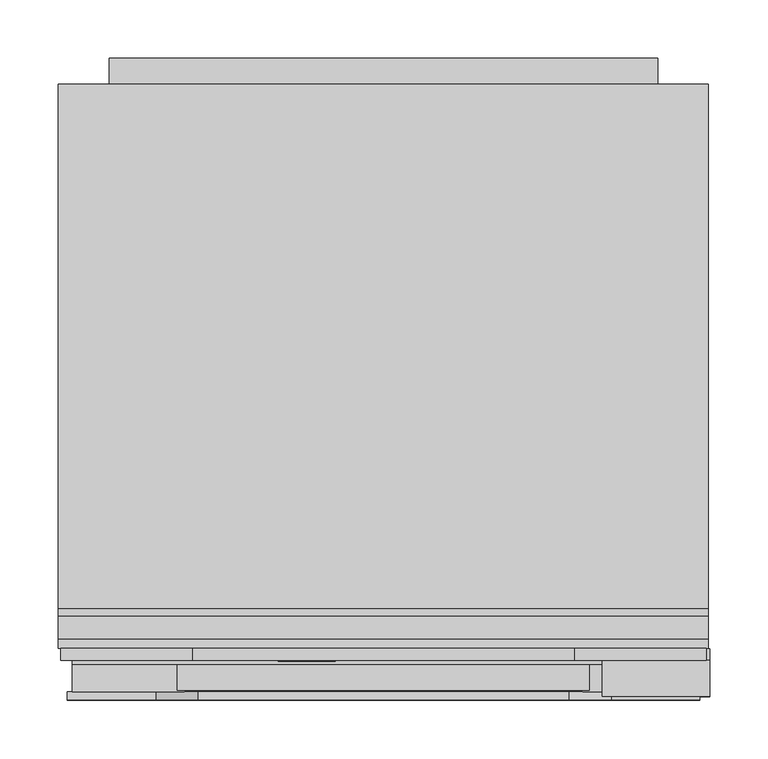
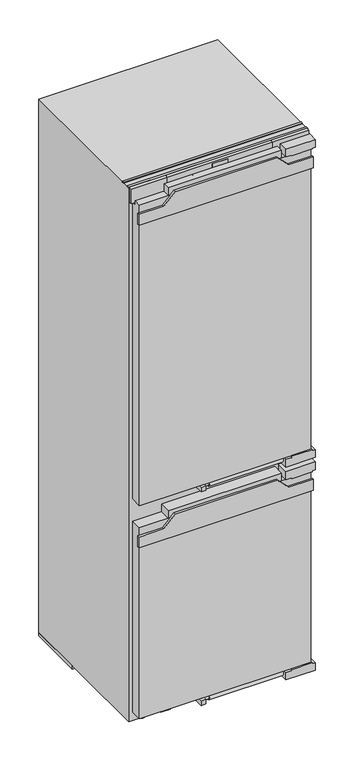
"""IFC4 building model written with IfcOpenShell, lengths in millimetres: proxy geometry, 11717510_OER_KFN7795D : 38779500_OER_11717510_KFN7795D."""

from ifc_helpers import new_model, si_unit, point, frame, frame_2d, origin, origin_with_axes, place, context, project, spatial, polyline, circle_curve, ellipse_curve, trimmed, segment, composite_curve, outline, extrude, faceted_brep, source, transform, mapped, element, save
from ifc_brep_helpers import plane_surface, cylinder_surface, revolved_surface, extruded_surface, advanced_brep


def specialty_equipment_5feef6a3(model_context):
    return source(origin(), model_context, "Body", "SolidModel", [
        advanced_brep(
        [(-46.64, 33.0, 1742.896), (-46.64, 33.0, 1743.704), (-41.288, 33.0, 1743.704), (-50.6, 33.0, 1743.704), (-48.4, 33.0, 1741.0), (-41.424, 33.0, 1742.896), (-43.84, 33.0, 1742.896), (-45.744, 33.0, 1742.0), (-46.64, 33.0, 1744.728), (-46.64, 33.0, 1745.6), (-45.272, 33.0, 1745.6), (-45.272, 33.0, 1744.728), (-46.64, 34.0, 1742.896), (-45.744, 34.0, 1742.0), (-43.84, 34.0, 1742.896), (-41.424, 34.0, 1742.896), (-48.4, 34.0, 1741.0), (-50.6, 34.0, 1743.704), (-41.288, 34.0, 1743.704), (-46.64, 34.0, 1743.704), (-46.64, 34.0, 1744.728), (-45.272, 34.0, 1744.728), (-45.272, 34.0, 1745.6), (-46.64, 34.0, 1745.6)],
        [
            (0, 1),
            (1, 2),
            (2, 3, ellipse_curve(frame((-45.944, 33.0, 1743.704), z_axis=(0.0, -1.0, 0.0), x_axis=(-1.0, 0.0, 0.0)), 4.656, 3.848)),
            (3, 4, circle_curve(frame((-47.5039564, 33.0, 1743.976), z_axis=(0.0, -1.0, 0.0), x_axis=(0.0, 0.0, -1.0)), 3.1079688)),
            (4, 5, circle_curve(frame((-46.0372064, 33.0, 1746.088), z_axis=(0.0, -1.0, 0.0), x_axis=(0.0, 0.0, -1.0)), 5.6098607)),
            (5, 6),
            (6, 7, circle_curve(frame((-45.3529412, 33.0, 1743.64), z_axis=(0.0, 1.0, 0.0), x_axis=(0.0, 0.0, -1.0)), 1.6859795)),
            (7, 0, circle_curve(frame((-45.744, 33.0, 1742.896), z_axis=(0.0, 1.0, 0.0), x_axis=(0.0, 0.0, -1.0)), 0.896)),
            (8, 9),
            (9, 10, circle_curve(frame((-45.956, 33.0, 1745.6), z_axis=(0.0, 1.0, 0.0), x_axis=(0.0, 0.0, -1.0)), 0.684)),
            (10, 11),
            (11, 8),
            (12, 13, circle_curve(frame((-45.744, 34.0, 1742.896), z_axis=(0.0, -1.0, 0.0), x_axis=(0.0, 0.0, -1.0)), 0.896)),
            (13, 14, circle_curve(frame((-45.3529412, 34.0, 1743.64), z_axis=(0.0, -1.0, 0.0), x_axis=(0.0, 0.0, -1.0)), 1.6859795)),
            (14, 15),
            (15, 16, circle_curve(frame((-46.0372064, 34.0, 1746.088), z_axis=(0.0, 1.0, 0.0), x_axis=(0.0, 0.0, -1.0)), 5.6098607)),
            (16, 17, circle_curve(frame((-47.5039564, 34.0, 1743.976), z_axis=(0.0, 1.0, 0.0), x_axis=(0.0, 0.0, -1.0)), 3.1079688)),
            (17, 18, ellipse_curve(frame((-45.944, 34.0, 1743.704), z_axis=(0.0, 1.0, 0.0), x_axis=(-1.0, 0.0, 0.0)), 4.656, 3.848)),
            (18, 19),
            (19, 12),
            (20, 21),
            (21, 22),
            (22, 23, circle_curve(frame((-45.956, 34.0, 1745.6), z_axis=(0.0, -1.0, 0.0), x_axis=(0.0, 0.0, -1.0)), 0.684)),
            (23, 20),
            (0, 12),
            (19, 1),
            (18, 2),
            (5, 15),
            (14, 6),
            (17, 3),
            (13, 7),
            (16, 4),
            (8, 20),
            (23, 9),
            (22, 10),
            (21, 11),
        ],
        [
            plane_surface(frame((-46.64, 33.0, 1743.704), z_axis=(0.0, -1.0, 0.0), x_axis=(0.0, 0.0, 1.0))),
            plane_surface(frame((-46.64, 34.0, 1743.704), z_axis=(0.0, 1.0, 0.0), x_axis=(0.0, 0.0, -1.0))),
            plane_surface(frame((-46.64, 33.0, 1742.896), z_axis=(1.0, 0.0, 0.0), x_axis=(0.0, 1.0, 0.0))),
            plane_surface(frame((-46.64, 33.0, 1743.704), z_axis=(0.0, 0.0, -1.0), x_axis=(0.0, 1.0, 0.0))),
            plane_surface(frame((-41.424, 33.0, 1742.896), z_axis=(0.0, 0.0, 1.0), x_axis=(0.0, 1.0, 0.0))),
            extruded_surface(trimmed(ellipse_curve(frame((-45.944, 35.0, 1743.704), z_axis=(0.0, -1.0, 0.0), x_axis=(-1.0, 0.0, 0.0)), 4.656, 3.848), [point((-41.288, 35.0, 1743.704))], [point((-50.6, 35.0, 1743.704))], True, "CARTESIAN"), (0.0, -1.0, 0.0), 1.0),
            revolved_surface(polyline([(-45.3529412, 34.0, 1741.9540205), (-45.3529412, 33.0, 1741.9540205)]), (-45.3529412, 34.0, 1743.64), (0.0, 1.0, 0.0)),
            revolved_surface(polyline([(-45.744, 34.0, 1742.0), (-45.744, 33.0, 1742.0)]), (-45.744, 34.0, 1742.896), (0.0, 1.0, 0.0)),
            cylinder_surface(frame((-47.5039564, 34.0, 1743.976), z_axis=(0.0, -1.0, 0.0), x_axis=(0.0, 0.0, -1.0)), 3.1079688),
            cylinder_surface(frame((-46.0372064, 34.0, 1746.088), z_axis=(0.0, -1.0, 0.0), x_axis=(0.0, 0.0, -1.0)), 5.6098607),
            plane_surface(frame((-46.64, 33.0, 1744.728), z_axis=(1.0, 0.0, 0.0), x_axis=(0.0, 1.0, 0.0))),
            revolved_surface(polyline([(-45.956, 34.0, 1744.916), (-45.956, 33.0, 1744.916)]), (-45.956, 34.0, 1745.6), (0.0, 1.0, 0.0)),
            plane_surface(frame((-45.272, 33.0, 1745.6), z_axis=(-1.0, 0.0, 0.0), x_axis=(0.0, 1.0, 0.0))),
            plane_surface(frame((-45.272, 33.0, 1744.728), z_axis=(0.0, 0.0, 1.0), x_axis=(0.0, 1.0, 0.0))),
        ],
        [
            (0, [[1, 2, 3, 4, 5, 6, 7, 8], [9, 10, 11, 12]]),
            (1, [[13, 14, 15, 16, 17, 18, 19, 20], [21, 22, 23, 24]]),
            (2, [[-1, 25, -20, 26]]),
            (3, [[-2, -26, -19, 27]]),
            (4, [[-6, 28, -15, 29]]),
            (5, [[-3, -27, -18, 30]]),
            (6, [[-7, -29, -14, 31]]),
            (7, [[-8, -31, -13, -25]]),
            (8, [[-4, -30, -17, 32]]),
            (9, [[-5, -32, -16, -28]]),
            (10, [[-9, 33, -24, 34]]),
            (11, [[-10, -34, -23, 35]]),
            (12, [[-11, -35, -22, 36]]),
            (13, [[-12, -36, -21, -33]]),
        ],
    ),
        advanced_brep(
        [(-63.336, 33.0, 1742.896), (-63.336, 33.0, 1743.704), (-57.984, 33.0, 1743.704), (-67.296, 33.0, 1743.704), (-65.096, 33.0, 1741.0), (-58.12, 33.0, 1742.896), (-60.536, 33.0, 1742.896), (-62.44, 33.0, 1742.0), (-63.336, 33.0, 1744.728), (-63.336, 33.0, 1745.6), (-61.968, 33.0, 1745.6), (-61.968, 33.0, 1744.728), (-63.336, 34.0, 1742.896), (-62.44, 34.0, 1742.0), (-60.536, 34.0, 1742.896), (-58.12, 34.0, 1742.896), (-65.096, 34.0, 1741.0), (-67.296, 34.0, 1743.704), (-57.984, 34.0, 1743.704), (-63.336, 34.0, 1743.704), (-63.336, 34.0, 1744.728), (-61.968, 34.0, 1744.728), (-61.968, 34.0, 1745.6), (-63.336, 34.0, 1745.6)],
        [
            (0, 1),
            (1, 2),
            (2, 3, ellipse_curve(frame((-62.64, 33.0, 1743.704), z_axis=(0.0, -1.0, 0.0), x_axis=(-1.0, 0.0, 0.0)), 4.656, 3.848)),
            (3, 4, circle_curve(frame((-64.1999564, 33.0, 1743.976), z_axis=(0.0, -1.0, 0.0), x_axis=(0.0, 0.0, -1.0)), 3.1079688)),
            (4, 5, circle_curve(frame((-62.7332064, 33.0, 1746.088), z_axis=(0.0, -1.0, 0.0), x_axis=(0.0, 0.0, -1.0)), 5.6098607)),
            (5, 6),
            (6, 7, circle_curve(frame((-62.0489412, 33.0, 1743.64), z_axis=(0.0, 1.0, 0.0), x_axis=(0.0, 0.0, -1.0)), 1.6859795)),
            (7, 0, circle_curve(frame((-62.44, 33.0, 1742.896), z_axis=(0.0, 1.0, 0.0), x_axis=(0.0, 0.0, -1.0)), 0.896)),
            (8, 9),
            (9, 10, circle_curve(frame((-62.652, 33.0, 1745.6), z_axis=(0.0, 1.0, 0.0), x_axis=(0.0, 0.0, -1.0)), 0.684)),
            (10, 11),
            (11, 8),
            (12, 13, circle_curve(frame((-62.44, 34.0, 1742.896), z_axis=(0.0, -1.0, 0.0), x_axis=(0.0, 0.0, -1.0)), 0.896)),
            (13, 14, circle_curve(frame((-62.0489412, 34.0, 1743.64), z_axis=(0.0, -1.0, 0.0), x_axis=(0.0, 0.0, -1.0)), 1.6859795)),
            (14, 15),
            (15, 16, circle_curve(frame((-62.7332064, 34.0, 1746.088), z_axis=(0.0, 1.0, 0.0), x_axis=(0.0, 0.0, -1.0)), 5.6098607)),
            (16, 17, circle_curve(frame((-64.1999564, 34.0, 1743.976), z_axis=(0.0, 1.0, 0.0), x_axis=(0.0, 0.0, -1.0)), 3.1079688)),
            (17, 18, ellipse_curve(frame((-62.64, 34.0, 1743.704), z_axis=(0.0, 1.0, 0.0), x_axis=(-1.0, 0.0, 0.0)), 4.656, 3.848)),
            (18, 19),
            (19, 12),
            (20, 21),
            (21, 22),
            (22, 23, circle_curve(frame((-62.652, 34.0, 1745.6), z_axis=(0.0, -1.0, 0.0), x_axis=(0.0, 0.0, -1.0)), 0.684)),
            (23, 20),
            (0, 12),
            (19, 1),
            (18, 2),
            (5, 15),
            (14, 6),
            (17, 3),
            (13, 7),
            (16, 4),
            (8, 20),
            (23, 9),
            (22, 10),
            (21, 11),
        ],
        [
            plane_surface(frame((-63.336, 33.0, 1743.704), z_axis=(0.0, -1.0, 0.0), x_axis=(0.0, 0.0, 1.0))),
            plane_surface(frame((-63.336, 34.0, 1743.704), z_axis=(0.0, 1.0, 0.0), x_axis=(0.0, 0.0, -1.0))),
            plane_surface(frame((-63.336, 33.0, 1742.896), z_axis=(1.0, 0.0, 0.0), x_axis=(0.0, 1.0, 0.0))),
            plane_surface(frame((-63.336, 33.0, 1743.704), z_axis=(0.0, 0.0, -1.0), x_axis=(0.0, 1.0, 0.0))),
            plane_surface(frame((-58.12, 33.0, 1742.896), z_axis=(0.0, 0.0, 1.0), x_axis=(0.0, 1.0, 0.0))),
            extruded_surface(trimmed(ellipse_curve(frame((-62.64, 35.0, 1743.704), z_axis=(0.0, -1.0, 0.0), x_axis=(-1.0, 0.0, 0.0)), 4.656, 3.848), [point((-57.984, 35.0, 1743.704))], [point((-67.296, 35.0, 1743.704))], True, "CARTESIAN"), (0.0, -1.0, 0.0), 1.0),
            revolved_surface(polyline([(-62.0489412, 34.0, 1741.9540205), (-62.0489412, 33.0, 1741.9540205)]), (-62.0489412, 34.0, 1743.64), (0.0, 1.0, 0.0)),
            revolved_surface(polyline([(-62.44, 34.0, 1742.0), (-62.44, 33.0, 1742.0)]), (-62.44, 34.0, 1742.896), (0.0, 1.0, 0.0)),
            cylinder_surface(frame((-64.1999564, 34.0, 1743.976), z_axis=(0.0, -1.0, 0.0), x_axis=(0.0, 0.0, -1.0)), 3.1079688),
            cylinder_surface(frame((-62.7332064, 34.0, 1746.088), z_axis=(0.0, -1.0, 0.0), x_axis=(0.0, 0.0, -1.0)), 5.6098607),
            plane_surface(frame((-63.336, 33.0, 1744.728), z_axis=(1.0, 0.0, 0.0), x_axis=(0.0, 1.0, 0.0))),
            revolved_surface(polyline([(-62.652, 34.0, 1744.916), (-62.652, 33.0, 1744.916)]), (-62.652, 34.0, 1745.6), (0.0, 1.0, 0.0)),
            plane_surface(frame((-61.968, 33.0, 1745.6), z_axis=(-1.0, 0.0, 0.0), x_axis=(0.0, 1.0, 0.0))),
            plane_surface(frame((-61.968, 33.0, 1744.728), z_axis=(0.0, 0.0, 1.0), x_axis=(0.0, 1.0, 0.0))),
        ],
        [
            (0, [[1, 2, 3, 4, 5, 6, 7, 8], [9, 10, 11, 12]]),
            (1, [[13, 14, 15, 16, 17, 18, 19, 20], [21, 22, 23, 24]]),
            (2, [[-1, 25, -20, 26]]),
            (3, [[-2, -26, -19, 27]]),
            (4, [[-6, 28, -15, 29]]),
            (5, [[-3, -27, -18, 30]]),
            (6, [[-7, -29, -14, 31]]),
            (7, [[-8, -31, -13, -25]]),
            (8, [[-4, -30, -17, 32]]),
            (9, [[-5, -32, -16, -28]]),
            (10, [[-9, 33, -24, 34]]),
            (11, [[-10, -34, -23, 35]]),
            (12, [[-11, -35, -22, 36]]),
            (13, [[-12, -36, -21, -33]]),
        ],
    ),
        extrude(outline(polyline([(1748.528, -72.08), (1747.232, -71.472), (1748.496, -68.76), (1749.792, -69.36), (1748.528, -72.08)])), frame((0.0, 33.0, 0.0), z_axis=(0.0, 1.0, 0.0), x_axis=(0.0, 0.0, 1.0)), (0.0, 0.0, 1.0), 1.0),
        extrude(outline(polyline([(1747.056, -74.056), (1745.624, -74.056), (1745.624, -73.104), (1742.344, -73.104), (1742.344, -74.056), (1741.0, -74.056), (1741.0, -67.744), (1742.344, -67.744), (1742.344, -68.672), (1747.056, -68.672), (1747.056, -74.056)])), frame((0.0, 33.0, 0.0), z_axis=(0.0, 1.0, 0.0), x_axis=(0.0, 0.0, 1.0)), (0.0, 0.0, 1.0), 1.0),
        extrude(outline(polyline([(1747.696, -57.536), (1747.696, -56.576), (1742.344, -56.576), (1742.344, -57.536), (1741.0, -57.536), (1741.0, -51.048), (1742.344, -51.048), (1742.344, -52.032), (1749.0, -52.032), (1749.0, -57.536), (1747.696, -57.536)])), frame((0.0, 33.0, 0.0), z_axis=(0.0, 1.0, 0.0), x_axis=(0.0, 0.0, 1.0)), (0.0, 0.0, 1.0), 1.0),
        extrude(outline(polyline([(1747.696, -90.0), (1747.696, -89.032), (1742.344, -89.032), (1742.344, -90.0), (1741.0, -90.0), (1741.0, -86.48), (1742.344, -86.48), (1742.344, -87.44), (1745.7471247, -87.44), (1741.0, -83.864), (1745.8152223, -80.272), (1742.344, -80.272), (1742.344, -81.256), (1741.0, -81.256), (1741.0, -74.872), (1742.344, -74.872), (1742.344, -75.888), (1747.696, -75.888), (1747.696, -74.872), (1749.0, -74.872), (1749.0, -79.744), (1746.0, -82.08), (1749.0, -84.424), (1749.0, -90.0), (1747.696, -90.0)])), frame((0.0, 33.0, 0.0), z_axis=(0.0, 1.0, 0.0), x_axis=(0.0, 0.0, 1.0)), (0.0, 0.0, 1.0), 1.0),
        extrude(outline(polyline([(607.0, 271.0), (643.0, 271.0), (643.0, 195.0), (679.0, 159.0), (679.0, -159.0), (643.0, -195.0), (643.0, -271.0), (607.0, -271.0), (607.0, 271.0)])), frame((0.0, 0.0, 0.0), z_axis=(0.0, 1.0, 0.0), x_axis=(0.0, 0.0, 1.0)), (0.0, 0.0, 1.0), 7.0),
        extrude(outline(polyline([(1669.0, 271.0), (1705.0, 271.0), (1705.0, 195.0), (1741.0, 159.0), (1741.0, -159.0), (1705.0, -195.0), (1705.0, -271.0), (1669.0, -271.0), (1669.0, 271.0)])), frame((0.0, 0.0, 0.0), z_axis=(0.0, 1.0, 0.0), x_axis=(0.0, 0.0, 1.0)), (0.0, 0.0, 1.0), 7.0),
        extrude(outline(composite_curve([segment(trimmed(circle_curve(frame_2d((-65.5, 25.0)), 6.5), [point((-72.0, 25.0))], [point((-59.0, 25.0))], False, "CARTESIAN"), True, "CONTINUOUS"), segment(trimmed(circle_curve(frame_2d((-65.5, 25.0)), 6.5), [point((-59.0, 25.0))], [point((-72.0, 25.0))], False, "CARTESIAN"), True, "CONTINUOUS")], self_intersect=False)), frame((0.0, 0.0, 732.0), z_axis=(0.0, 0.0, 1.0), x_axis=(1.0, 0.0, 0.0)), (0.0, 0.0, 1.0), 8.0),
        extrude(outline(polyline([(-74.0, 42.0), (-59.0, 42.0), (-59.0, 8.0), (-74.0, 8.0), (-74.0, 42.0)])), frame((0.0, 0.0, 717.3963013), z_axis=(0.0, 0.0, 1.0), x_axis=(1.0, 0.0, 0.0)), (0.0, 0.0, 1.0), 14.6036987),
        extrude(outline(composite_curve([segment(trimmed(circle_curve(frame_2d((-65.5, 25.0)), 6.5), [point((-72.0, 25.0))], [point((-59.0, 25.0))], False, "CARTESIAN"), True, "CONTINUOUS"), segment(trimmed(circle_curve(frame_2d((-65.5, 25.0)), 6.5), [point((-59.0, 25.0))], [point((-72.0, 25.0))], False, "CARTESIAN"), True, "CONTINUOUS")], self_intersect=False)), frame((0.0, 0.0, 29.0), z_axis=(0.0, 0.0, 1.0), x_axis=(1.0, 0.0, 0.0)), (0.0, 0.0, 1.0), 9.0),
        extrude(outline(polyline([(-74.0, 42.0), (-59.0, 42.0), (-59.0, 8.0), (-74.0, 8.0), (-74.0, 42.0)])), frame((0.0, 0.0, 14.3963013), z_axis=(0.0, 0.0, 1.0), x_axis=(1.0, 0.0, 0.0)), (0.0, 0.0, 1.0), 14.6036987),
        extrude(outline(polyline([(736.0, 205.5), (736.0, 187.5), (711.0, 187.5), (711.0, 279.5), (736.0, 279.5), (736.0, 269.5), (740.0, 269.5), (740.0, 205.5), (736.0, 205.5)])), frame((0.0, 3.0, 0.0), z_axis=(0.0, 1.0, 0.0), x_axis=(0.0, 0.0, 1.0)), (0.0, 0.0, 1.0), 41.0),
        extrude(outline(polyline([(176.5, 8.0), (-176.5, 8.0), (-176.5, 30.0), (176.5, 30.0), (176.5, 8.0)])), frame((0.0, 0.0, 1730.0), z_axis=(0.0, 0.0, 1.0), x_axis=(1.0, 0.0, 0.0)), (0.0, 0.0, 1.0), 25.0),
        extrude(outline(polyline([(7.0, 740.0), (7.0, 1730.0), (30.0, 1730.0), (30.0, 1715.0), (44.0, 1715.0), (44.0, 740.0), (7.0, 740.0)])), frame((-266.5, 0.0, 0.0), z_axis=(1.0, 0.0, 0.0), x_axis=(0.0, 1.0, 0.0)), (0.0, 0.0, 1.0), 533.0),
        extrude(outline(polyline([(-176.5, 44.0), (176.5, 44.0), (176.5, 8.0), (-176.5, 8.0), (-176.5, 44.0)])), frame((0.0, 0.0, 667.0), z_axis=(0.0, 0.0, 1.0), x_axis=(1.0, 0.0, 0.0)), (0.0, 0.0, 1.0), 25.0),
        extrude(outline(polyline([(696.0, 279.5), (696.0, 187.5), (670.0, 187.5), (670.0, 205.5), (667.0, 205.5), (667.0, 269.5), (670.0, 269.5), (670.0, 279.5), (696.0, 279.5)])), frame((0.0, 3.0, 0.0), z_axis=(0.0, 1.0, 0.0), x_axis=(0.0, 0.0, 1.0)), (0.0, 0.0, 1.0), 41.0),
        extrude(outline(polyline([(34.0, 205.5), (34.0, 187.5), (10.0, 187.5), (10.0, 279.5), (34.0, 279.5), (34.0, 269.5), (38.0, 269.5), (38.0, 205.5), (34.0, 205.5)])), frame((0.0, 3.0, 0.0), z_axis=(0.0, 1.0, 0.0), x_axis=(0.0, 0.0, 1.0)), (0.0, 0.0, 1.0), 41.0),
        extrude(outline(polyline([(1732.0, 269.5), (1732.0, 279.5), (1757.0, 279.5), (1757.0, 187.5), (1732.0, 187.5), (1732.0, 205.5), (1730.0, 205.5), (1730.0, 269.5), (1732.0, 269.5)])), frame((0.0, 3.0, 0.0), z_axis=(0.0, 1.0, 0.0), x_axis=(0.0, 0.0, 1.0)), (0.0, 0.0, 1.0), 31.0),
        extrude(outline(polyline([(-266.5, 44.0), (266.5, 44.0), (266.5, 7.0), (-266.5, 7.0), (-266.5, 44.0)])), frame((0.0, 0.0, 38.0), z_axis=(0.0, 0.0, 1.0), x_axis=(1.0, 0.0, 0.0)), (0.0, 0.0, 1.0), 629.0),
        extrude(outline(composite_curve([segment(trimmed(circle_curve(frame_2d((25.0, 726.0)), 6.0), [point((25.0, 720.0))], [point((25.0, 732.0))], False, "CARTESIAN"), True, "CONTINUOUS"), segment(trimmed(circle_curve(frame_2d((25.0, 726.0)), 6.0), [point((25.0, 732.0))], [point((25.0, 720.0))], False, "CARTESIAN"), True, "CONTINUOUS")], self_intersect=False)), frame((-59.0, 0.0, 0.0), z_axis=(1.0, 0.0, 0.0), x_axis=(0.0, 1.0, 0.0)), (0.0, 0.0, 1.0), 16.0),
        extrude(outline(composite_curve([segment(trimmed(circle_curve(frame_2d((25.0, 726.0)), 9.0), [point((25.0, 717.0))], [point((25.0, 735.0))], False, "CARTESIAN"), True, "CONTINUOUS"), segment(trimmed(circle_curve(frame_2d((25.0, 726.0)), 9.0), [point((25.0, 735.0))], [point((25.0, 717.0))], False, "CARTESIAN"), True, "CONTINUOUS")], self_intersect=False)), frame((-43.0, 0.0, 0.0), z_axis=(1.0, 0.0, 0.0), x_axis=(0.0, 1.0, 0.0)), (0.0, 0.0, 1.0), 230.5),
        extrude(outline(composite_curve([segment(trimmed(circle_curve(frame_2d((25.0, 23.0)), 9.0), [point((25.0, 14.0))], [point((25.0, 32.0))], False, "CARTESIAN"), True, "CONTINUOUS"), segment(trimmed(circle_curve(frame_2d((25.0, 23.0)), 9.0), [point((25.0, 32.0))], [point((25.0, 14.0))], False, "CARTESIAN"), True, "CONTINUOUS")], self_intersect=False)), frame((-43.0, 0.0, 0.0), z_axis=(1.0, 0.0, 0.0), x_axis=(0.0, 1.0, 0.0)), (0.0, 0.0, 1.0), 230.5),
        extrude(outline(composite_curve([segment(trimmed(circle_curve(frame_2d((25.0, 23.0)), 6.0), [point((25.0, 17.0))], [point((25.0, 29.0))], False, "CARTESIAN"), True, "CONTINUOUS"), segment(trimmed(circle_curve(frame_2d((25.0, 23.0)), 6.0), [point((25.0, 29.0))], [point((25.0, 17.0))], False, "CARTESIAN"), True, "CONTINUOUS")], self_intersect=False)), frame((-59.0, 0.0, 0.0), z_axis=(1.0, 0.0, 0.0), x_axis=(0.0, 1.0, 0.0)), (0.0, 0.0, 1.0), 16.0),
        faceted_brep([(163.5, 34.0, 1770.0), (-163.5, 34.0, 1770.0), (-163.5, 34.0, 1721.0), (163.5, 34.0, 1721.0), (24.5, 34.0, 1765.0), (24.5, 34.0, 1727.0), (-24.5, 34.0, 1727.0), (-24.5, 34.0, 1765.0), (163.5, 44.0, 1770.0), (163.5, 44.0, 1721.0), (-163.5, 44.0, 1721.0), (-163.5, 44.0, 1770.0), (24.5, 35.0, 1765.0), (-24.5, 35.0, 1765.0), (-24.5, 35.0, 1727.0), (24.5, 35.0, 1727.0)], [[[0, 1, 2, 3], [4, 5, 6, 7]], [[8, 9, 10, 11]], [[0, 3, 9, 8]], [[3, 2, 10, 9]], [[2, 1, 11, 10]], [[1, 0, 8, 11]], [[12, 13, 14, 15]], [[12, 15, 5, 4]], [[15, 14, 6, 5]], [[14, 13, 7, 6]], [[13, 12, 4, 7]]]),
        extrude(outline(polyline([(163.5, 44.0), (276.5, 44.0), (276.5, 34.0), (163.5, 34.0), (163.5, 44.0)])), frame((0.0, 0.0, 1721.0), z_axis=(0.0, 0.0, 1.0), x_axis=(1.0, 0.0, 0.0)), (0.0, 0.0, 1.0), 49.0),
        extrude(outline(polyline([(-276.5, 44.0), (-163.5, 44.0), (-163.5, 34.0), (-276.5, 34.0), (-276.5, 44.0)])), frame((0.0, 0.0, 1721.0), z_axis=(0.0, 0.0, 1.0), x_axis=(1.0, 0.0, 0.0)), (0.0, 0.0, 1.0), 49.0),
        extrude(outline(polyline([(-24.5, 35.0), (24.5, 35.0), (24.5, 34.0), (-24.5, 34.0), (-24.5, 35.0)])), frame((0.0, 0.0, 1727.0), z_axis=(0.0, 0.0, 1.0), x_axis=(1.0, 0.0, 0.0)), (0.0, 0.0, 1.0), 38.0),
        extrude(outline(polyline([(1647.0, -235.0), (27.0, -235.0), (27.0, 235.0), (130.0, 235.0), (130.0, 180.0), (160.0, 180.0), (160.0, 235.0), (1647.0, 235.0), (1647.0, -235.0)])), frame((0.0, 528.0, 0.0), z_axis=(0.0, 1.0, 0.0), x_axis=(0.0, 0.0, 1.0)), (0.0, 0.0, 1.0), 22.0),
        extrude(outline(polyline([(-144.929185, 52.0), (-174.0, 52.0), (-194.6983363, 348.0), (-165.6275213, 348.0), (-144.929185, 52.0)])), origin_with_axes(), (0.0, 0.0, 1.0), 10.0),
        extrude(outline(polyline([(144.929185, 52.0), (165.6275213, 348.0), (194.6983363, 348.0), (174.0, 52.0), (144.929185, 52.0)])), origin_with_axes(), (0.0, 0.0, 1.0), 10.0),
        extrude(outline(polyline([(541.4384039, 149.874164), (548.6647626, 149.874164), (548.6647626, 139.824714), (541.2826236, 139.824714), (541.2826236, 141.0836119), (547.4056247, 141.0836119), (547.4056247, 144.3750411), (541.7614845, 144.3750411), (541.7614845, 145.6249589), (547.4056247, 145.6249589), (547.4056247, 148.6148402), (541.4384039, 148.6148402), (541.4384039, 149.874164)])), frame((193.5, 0.0, 0.0), z_axis=(1.0, 0.0, 0.0), x_axis=(0.0, 1.0, 0.0)), (0.0, 0.0, 1.0), 1.0),
        extrude(outline(polyline([(538.1383052, 149.8716162), (539.399354, 149.8716162), (539.399354, 139.824714), (533.1225656, 139.824714), (533.1225656, 141.0927041), (538.1383052, 141.0927041), (538.1383052, 149.8716162)])), frame((193.5, 0.0, 0.0), z_axis=(1.0, 0.0, 0.0), x_axis=(0.0, 1.0, 0.0)), (0.0, 0.0, 1.0), 1.0),
        advanced_brep(
        [(232.0, 528.0, 145.0), (217.0, 528.0, 145.0), (232.0, 549.5, 145.0), (217.0, 534.5, 145.0), (194.5, 549.5, 145.0), (194.5, 534.5, 145.0)],
        [
            (0, 1, circle_curve(frame((224.5, 528.0, 145.0), z_axis=(0.0, -1.0, 0.0), x_axis=(-1.0, 0.0, 0.0)), 7.5)),
            (1, 0, circle_curve(frame((224.5, 528.0, 145.0), z_axis=(0.0, -1.0, 0.0), x_axis=(-1.0, 0.0, 0.0)), 7.5)),
            (0, 2),
            (2, 3, ellipse_curve(frame((224.5, 542.0, 145.0), z_axis=(0.7071067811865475, -0.7071067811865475, 0.0), x_axis=(-0.7071067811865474, -0.7071067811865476, 0.0)), 10.6066017, 7.5)),
            (3, 1),
            (3, 2, ellipse_curve(frame((224.5, 542.0, 145.0), z_axis=(0.7071067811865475, -0.7071067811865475, 0.0), x_axis=(-0.7071067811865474, -0.7071067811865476, 0.0)), 10.6066017, 7.5)),
            (4, 5, circle_curve(frame((194.5, 542.0, 145.0), z_axis=(-1.0, 0.0, 0.0), x_axis=(0.0, -1.0, 0.0)), 7.5)),
            (5, 4, circle_curve(frame((194.5, 542.0, 145.0), z_axis=(-1.0, 0.0, 0.0), x_axis=(0.0, -1.0, 0.0)), 7.5)),
            (2, 4),
            (5, 3),
        ],
        [
            plane_surface(frame((224.5, 528.0, 145.0), z_axis=(0.0, -1.0, 0.0), x_axis=(0.0, 0.0, 1.0))),
            cylinder_surface(frame((224.5, 528.0, 145.0), z_axis=(0.0, -1.0, 0.0), x_axis=(-1.0, 0.0, 0.0)), 7.5),
            plane_surface(frame((194.5, 542.0, 145.0), z_axis=(-1.0, 0.0, 0.0), x_axis=(0.0, 0.0, 1.0))),
            cylinder_surface(frame((224.5, 542.0, 145.0), z_axis=(1.0, 0.0, 0.0), x_axis=(0.0, -1.0, 0.0)), 7.5),
        ],
        [
            (0, [[1, 2]]),
            (1, [[-1, 3, 4, 5]]),
            (1, [[-2, -5, 6, -3]]),
            (2, [[7, 8]]),
            (3, [[-4, 9, -8, 10]]),
            (3, [[-6, -10, -7, -9]]),
        ],
    ),
        extrude(outline(polyline([(-34.0, 44.0), (34.0, 44.0), (34.0, 35.0), (-34.0, 35.0), (-34.0, 44.0)])), frame((0.0, 0.0, 13.0), z_axis=(0.0, 0.0, 1.0), x_axis=(1.0, 0.0, 0.0)), (0.0, 0.0, 1.0), 19.0),
        extrude(outline(polyline([(278.5, 52.0), (278.5, 44.0), (-278.5, 44.0), (-278.5, 52.0), (278.5, 52.0)])), frame((0.0, 0.0, 1767.0), z_axis=(0.0, 0.0, 1.0), x_axis=(1.0, 0.0, 0.0)), (0.0, 0.0, 1.0), 3.0),
        extrude(outline(polyline([(278.5, 78.0), (278.5, 72.0), (-278.5, 72.0), (-278.5, 78.0), (278.5, 78.0)])), frame((0.0, 0.0, 1767.0), z_axis=(0.0, 0.0, 1.0), x_axis=(1.0, 0.0, 0.0)), (0.0, 0.0, 1.0), 3.0),
        extrude(outline(polyline([(-242.5, 44.0), (-242.5, 490.0), (242.5, 490.0), (242.5, 44.0), (-242.5, 44.0)])), frame((0.0, 0.0, 1142.0), z_axis=(0.0, 0.0, 1.0), x_axis=(1.0, 0.0, 0.0)), (0.0, 0.0, 1.0), 3.0),
        extrude(outline(polyline([(-217.5, 312.0), (-217.5, 451.0), (217.5, 451.0), (217.5, 312.0), (-217.5, 312.0)])), frame((0.0, 0.0, 93.0), z_axis=(0.0, 0.0, 1.0), x_axis=(1.0, 0.0, 0.0)), (0.0, 0.0, 1.0), 181.0),
        extrude(outline(composite_curve([segment(trimmed(circle_curve(frame_2d((228.0, 64.0)), 11.0), [point((239.0, 64.0))], [point((217.0, 64.0))], False, "CARTESIAN"), True, "CONTINUOUS"), segment(trimmed(circle_curve(frame_2d((228.0, 64.0)), 11.0), [point((217.0, 64.0))], [point((239.0, 64.0))], False, "CARTESIAN"), True, "CONTINUOUS")], self_intersect=False)), origin_with_axes(), (0.0, 0.0, 1.0), 10.0),
        extrude(outline(composite_curve([segment(trimmed(circle_curve(frame_2d((-228.0, 64.0)), 11.0), [point((-217.0, 64.0))], [point((-239.0, 64.0))], False, "CARTESIAN"), True, "CONTINUOUS"), segment(trimmed(circle_curve(frame_2d((-228.0, 64.0)), 11.0), [point((-239.0, 64.0))], [point((-217.0, 64.0))], False, "CARTESIAN"), True, "CONTINUOUS")], self_intersect=False)), origin_with_axes(), (0.0, 0.0, 1.0), 10.0),
        extrude(outline(polyline([(278.5, 528.0), (278.5, 348.0), (-278.5, 348.0), (-278.5, 528.0), (278.5, 528.0)])), origin_with_axes(), (0.0, 0.0, 1.0), 10.0),
        faceted_brep([(278.5, 528.0, 1767.0), (-278.5, 528.0, 1767.0), (-278.5, 44.0, 1767.0), (278.5, 44.0, 1767.0), (278.5, 528.0, 10.0), (278.5, 44.0, 10.0), (-278.5, 44.0, 10.0), (-278.5, 528.0, 10.0), (242.5, 44.0, 1692.0), (242.5, 44.0, 765.0), (-242.5, 44.0, 765.0), (-242.5, 44.0, 1692.0), (217.5, 44.0, 633.0), (217.5, 44.0, 93.0), (-217.5, 44.0, 93.0), (-217.5, 44.0, 633.0), (242.5, 490.0, 1692.0), (-242.5, 490.0, 1692.0), (-242.5, 490.0, 765.0), (242.5, 490.0, 765.0), (217.5, 451.0, 633.0), (217.5, 451.0, 93.0), (-217.5, 451.0, 633.0), (-217.5, 451.0, 93.0)], [[[0, 1, 2, 3]], [[4, 5, 6, 7]], [[1, 0, 4, 7]], [[2, 1, 7, 6]], [[3, 2, 6, 5], [8, 9, 10, 11], [12, 13, 14, 15]], [[0, 3, 5, 4]], [[16, 17, 18, 19]], [[16, 19, 9, 8]], [[19, 18, 10, 9]], [[18, 17, 11, 10]], [[17, 16, 8, 11]], [[20, 21, 13, 12]], [[22, 15, 14, 23]], [[21, 20, 22, 23]], [[13, 21, 23, 14]], [[20, 12, 15, 22]]]),
    ])


if __name__ == "__main__":
    model = new_model("IFC4")
    model_context = context("Model", 3, world=origin())
    ifc_project = project(units=[si_unit("LENGTHUNIT", "METRE", prefix="MILLI")], contexts=[model_context])
    site = spatial("IfcSite", under=ifc_project)
    building = spatial("IfcBuilding", under=site)
    placement = place(None, origin())
    specialty_equipment_shape = specialty_equipment_5feef6a3(model_context)
    element("IfcBuildingElementProxy", 1, Name="11717510_OER_KFN7795D : 38779500_OER_11717510_KFN7795D", ObjectType="11717510_OER_KFN7795D : 38779500_OER_11717510_KFN7795D", at=placement, inside=building, context=model_context, shape_type="MappedRepresentation", body=[
        mapped(specialty_equipment_shape, transform((0.0, 0.0, 0.0), x_axis=(1.0, 0.0, 0.0), y_axis=(0.0, 1.0, 0.0), z_axis=(0.0, 0.0, 1.0))),
    ])
    save(model, "model.ifc")
